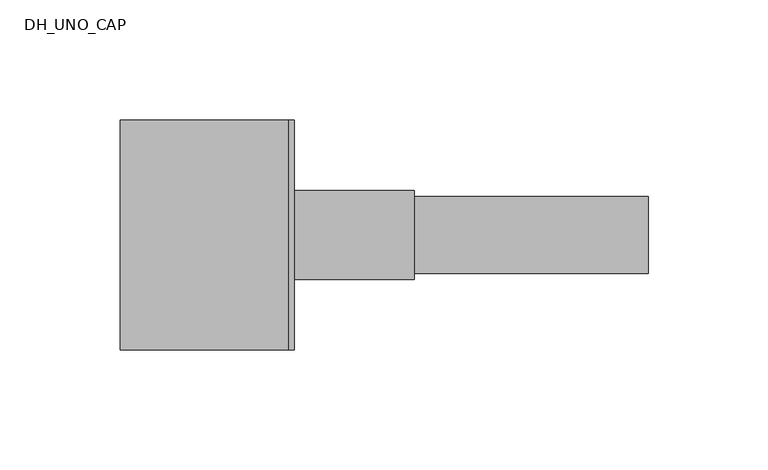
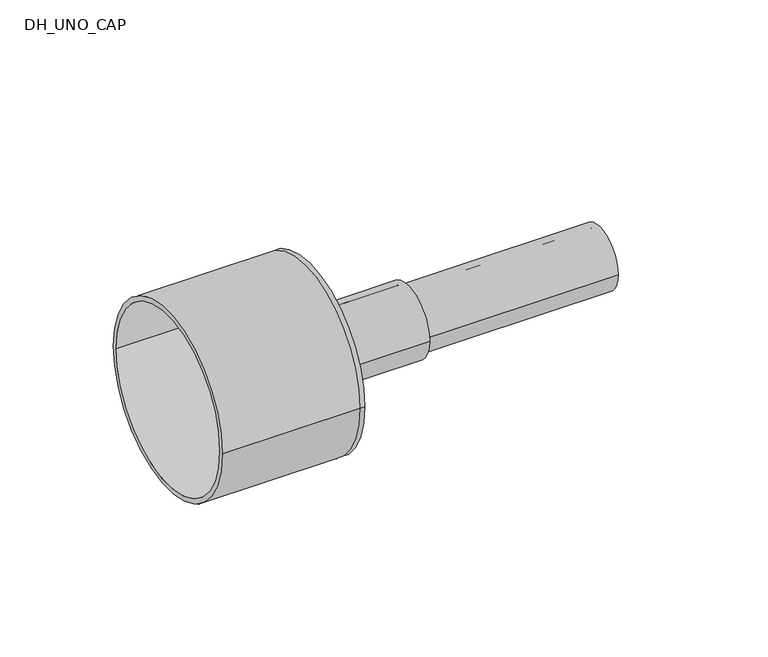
"""IFC4 building model written with IfcOpenShell, lengths in millimetres: pipe fitting geometry, DH_UNO_CAP : RAUTHERMEX UNO + 11 Heating - Rubber Cap."""

from ifc_helpers import new_model, si_unit, point, frame, origin, origin_2d, place, context, project, spatial, polyline, circle_curve, trimmed, segment, composite_curve, outline, extrude, source, transform, mapped, element, save
from ifc_brep_helpers import plane_surface, cylinder_surface, revolved_surface, advanced_brep


def dh_uno_cap_03200df1(model_context):
    return source(origin(), model_context, "Body", "SolidModel", [
        extrude(outline(composite_curve([segment(trimmed(circle_curve(origin_2d(), 16.0), [point((-16.0, 0.0))], [point((16.0, 0.0))], False, "CARTESIAN"), True, "CONTINUOUS"), segment(trimmed(circle_curve(origin_2d(), 16.0), [point((16.0, 0.0))], [point((-16.0, 0.0))], False, "CARTESIAN"), True, "CONTINUOUS")], self_intersect=False), holes=[composite_curve([segment(trimmed(circle_curve(origin_2d(), 13.1), [point((-13.1, 0.0))], [point((13.1, 0.0))], True, "CARTESIAN"), True, "CONTINUOUS"), segment(trimmed(circle_curve(origin_2d(), 13.1), [point((13.1, 0.0))], [point((-13.1, 0.0))], True, "CARTESIAN"), True, "CONTINUOUS")], self_intersect=False)]), frame((0.0, 0.0, 0.0), z_axis=(1.0, 0.0, 0.0), x_axis=(0.0, 1.0, 0.0)), (0.0, 0.0, 1.0), 150.0),
        advanced_brep(
        [(-70.0, -48.0, 0.0), (-70.0, 48.0, 0.0), (-70.0, -45.5, 0.0), (-70.0, 45.5, 0.0), (0.0, -45.5, 0.0), (0.0, 45.5, 0.0), (0.0, -48.0, 0.0), (0.0, 48.0, 0.0), (0.0, 16.0, 0.0), (0.0, -16.0, 0.0), (2.5, -48.0, 0.0), (2.5, 48.0, 0.0), (2.5, -16.0, 0.0), (2.5, 16.0, 0.0)],
        [
            (0, 1, circle_curve(frame((-70.0, 0.0, 0.0), z_axis=(-1.0, 0.0, 0.0), x_axis=(0.0, 1.0, 0.0)), 48.0)),
            (1, 0, circle_curve(frame((-70.0, 0.0, 0.0), z_axis=(-1.0, 0.0, 0.0), x_axis=(0.0, 1.0, 0.0)), 48.0)),
            (2, 3, circle_curve(frame((-70.0, 0.0, 0.0), z_axis=(1.0, 0.0, 0.0), x_axis=(0.0, 1.0, 0.0)), 45.5)),
            (3, 2, circle_curve(frame((-70.0, 0.0, 0.0), z_axis=(1.0, 0.0, 0.0), x_axis=(0.0, 1.0, 0.0)), 45.5)),
            (2, 4),
            (4, 5, circle_curve(frame((0.0, 0.0, 0.0), z_axis=(1.0, 0.0, 0.0), x_axis=(0.0, 1.0, 0.0)), 45.5)),
            (5, 3),
            (5, 4, circle_curve(frame((0.0, 0.0, 0.0), z_axis=(1.0, 0.0, 0.0), x_axis=(0.0, 1.0, 0.0)), 45.5)),
            (0, 6),
            (6, 7, circle_curve(frame((0.0, 0.0, 0.0), z_axis=(-1.0, 0.0, 0.0), x_axis=(0.0, 1.0, 0.0)), 48.0)),
            (7, 1),
            (7, 6, circle_curve(frame((0.0, 0.0, 0.0), z_axis=(-1.0, 0.0, 0.0), x_axis=(0.0, 1.0, 0.0)), 48.0)),
            (8, 9, circle_curve(frame((0.0, 0.0, 0.0), z_axis=(1.0, 0.0, 0.0), x_axis=(0.0, 1.0, 0.0)), 16.0)),
            (9, 8, circle_curve(frame((0.0, 0.0, 0.0), z_axis=(1.0, 0.0, 0.0), x_axis=(0.0, 1.0, 0.0)), 16.0)),
            (10, 11, circle_curve(frame((2.5, 0.0, 0.0), z_axis=(1.0, 0.0, 0.0), x_axis=(0.0, 1.0, 0.0)), 48.0)),
            (11, 10, circle_curve(frame((2.5, 0.0, 0.0), z_axis=(1.0, 0.0, 0.0), x_axis=(0.0, 1.0, 0.0)), 48.0)),
            (12, 13, circle_curve(frame((2.5, 0.0, 0.0), z_axis=(-1.0, 0.0, 0.0), x_axis=(0.0, 1.0, 0.0)), 16.0)),
            (13, 12, circle_curve(frame((2.5, 0.0, 0.0), z_axis=(-1.0, 0.0, 0.0), x_axis=(0.0, 1.0, 0.0)), 16.0)),
            (11, 7),
            (6, 10),
            (8, 13),
            (12, 9),
        ],
        [
            plane_surface(frame((-70.0, 0.0, 0.0), z_axis=(-1.0, 0.0, 0.0), x_axis=(0.0, 0.0, 1.0))),
            revolved_surface(polyline([(0.0, 45.5, 0.0), (-70.0, 45.5, 0.0)]), (-70.0, 0.0, 0.0), (1.0, 0.0, 0.0)),
            cylinder_surface(frame((-70.0, 0.0, 0.0), z_axis=(-1.0, 0.0, 0.0), x_axis=(0.0, 1.0, 0.0)), 48.0),
            plane_surface(frame((0.0, 0.0, 0.0), z_axis=(-1.0, 0.0, 0.0), x_axis=(0.0, 0.0, 1.0))),
            plane_surface(frame((2.5, 0.0, 0.0), z_axis=(1.0, 0.0, 0.0), x_axis=(0.0, 0.0, 1.0))),
            cylinder_surface(frame((0.0, 0.0, 0.0), z_axis=(-1.0, 0.0, 0.0), x_axis=(0.0, 1.0, 0.0)), 48.0),
            revolved_surface(polyline([(0.0, 16.0, 0.0), (2.5, 16.0, 0.0)]), (0.0, 0.0, 0.0), (-1.0, 0.0, 0.0)),
        ],
        [
            (0, [[1, 2], [3, 4]]),
            (1, [[-3, 5, 6, 7]]),
            (1, [[-4, -7, 8, -5]]),
            (2, [[-1, 9, 10, 11]]),
            (2, [[-2, -11, 12, -9]]),
            (3, [[-6, -8], [13, 14]]),
            (4, [[15, 16], [17, 18]]),
            (5, [[-16, 19, -10, 20]]),
            (5, [[-15, -20, -12, -19]]),
            (6, [[21, -17, 22, -13]]),
            (6, [[-21, -14, -22, -18]]),
        ],
    ),
        extrude(outline(composite_curve([segment(trimmed(circle_curve(origin_2d(), 18.5), [point((-18.5, 0.0))], [point((18.5, 0.0))], False, "CARTESIAN"), True, "CONTINUOUS"), segment(trimmed(circle_curve(origin_2d(), 18.5), [point((18.5, 0.0))], [point((-18.5, 0.0))], False, "CARTESIAN"), True, "CONTINUOUS")], self_intersect=False), holes=[composite_curve([segment(trimmed(circle_curve(origin_2d(), 16.0), [point((-16.0, 0.0))], [point((16.0, 0.0))], True, "CARTESIAN"), True, "CONTINUOUS"), segment(trimmed(circle_curve(origin_2d(), 16.0), [point((16.0, 0.0))], [point((-16.0, 0.0))], True, "CARTESIAN"), True, "CONTINUOUS")], self_intersect=False)]), frame((2.5, 0.0, 0.0), z_axis=(1.0, 0.0, 0.0), x_axis=(0.0, 1.0, 0.0)), (0.0, 0.0, 1.0), 50.0),
    ])


if __name__ == "__main__":
    model = new_model("IFC4")
    model_context = context("Model", 3, world=origin())
    ifc_project = project(units=[si_unit("LENGTHUNIT", "METRE", prefix="MILLI")], contexts=[model_context])
    site = spatial("IfcSite", under=ifc_project)
    building = spatial("IfcBuilding", under=site)
    placement = place(None, origin())
    dh_uno_cap_shape = dh_uno_cap_03200df1(model_context)
    element("IfcPipeFitting", 1, ObjectType="DH_UNO_CAP : RAUTHERMEX UNO + 11 Heating - Rubber Cap", at=placement, inside=building, context=model_context, shape_type="MappedRepresentation", body=[
        mapped(dh_uno_cap_shape, transform((0.0, 0.0, 0.0), x_axis=(1.0, 0.0, 0.0), y_axis=(0.0, 1.0, 0.0), z_axis=(0.0, 0.0, 1.0))),
    ])
    save(model, "model.ifc")
